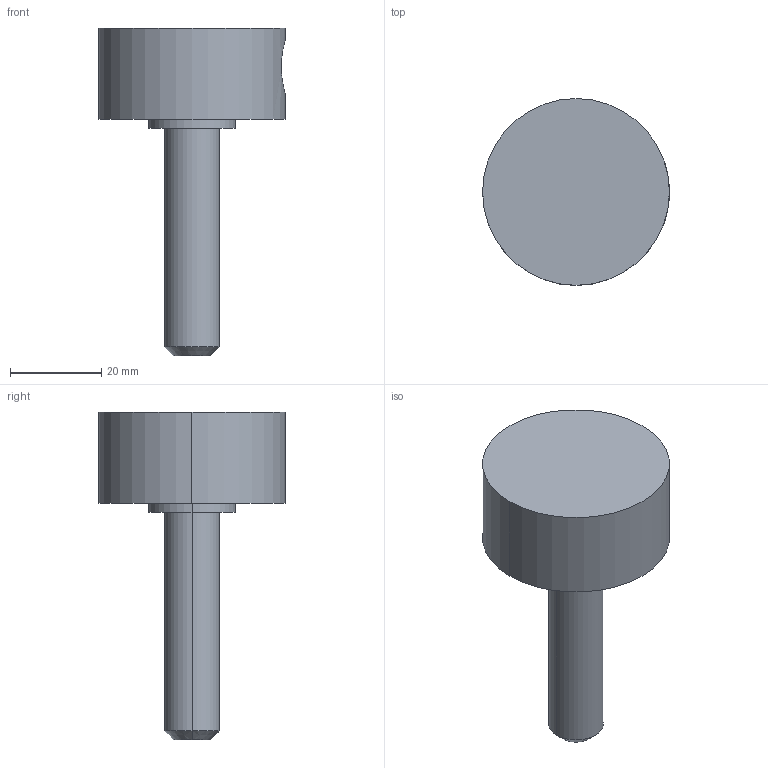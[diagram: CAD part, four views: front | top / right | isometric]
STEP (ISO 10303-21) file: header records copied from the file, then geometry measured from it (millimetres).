
FILE_DESCRIPTION (( 'STEP AP203' ), '1' );
FILE_NAME ('ftn12x50.STEP', '2021-10-26T00:25:09', ( '' ), ( '' ), 'SwSTEP 2.0', 'SolidWorks 2020', '' );
FILE_SCHEMA (( 'CONFIG_CONTROL_DESIGN' ));
Length unit declared in the file: millimetre
Products named in the file (1): ftn12x50
Bounding box: 41 x 41 x 72 mm (x, y, z)
Volume: 31708.5 mm3; surface area: 7492.8 mm2
Topology: 1 solids, 1 shells, 18 faces, 35 edges, 22 vertices
Faces by surface type: cylinder 10, plane 6, cone 2
Entity records: 624 total; most frequent: CARTESIAN_POINT 160, DIRECTION 91, ORIENTED_EDGE 70, AXIS2_PLACEMENT_3D 39, EDGE_CURVE 35, VERTEX_POINT 22, EDGE_LOOP 21, CIRCLE 20
